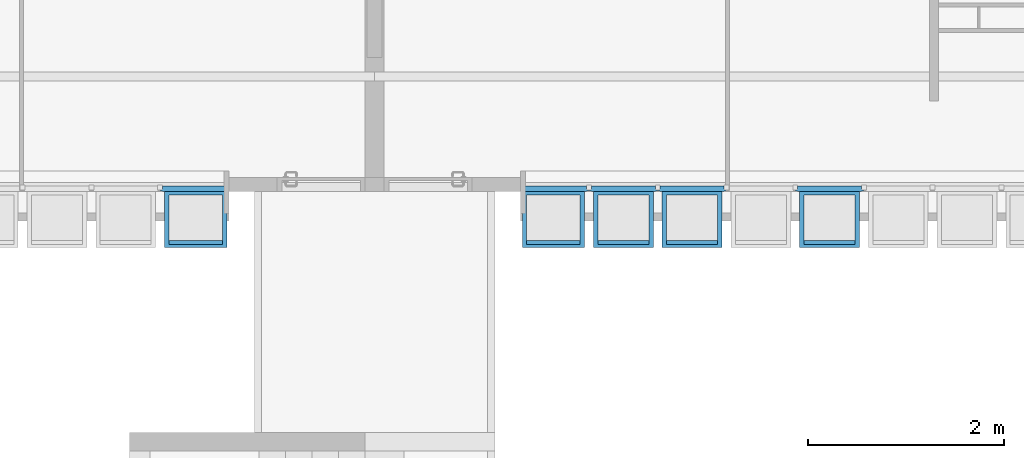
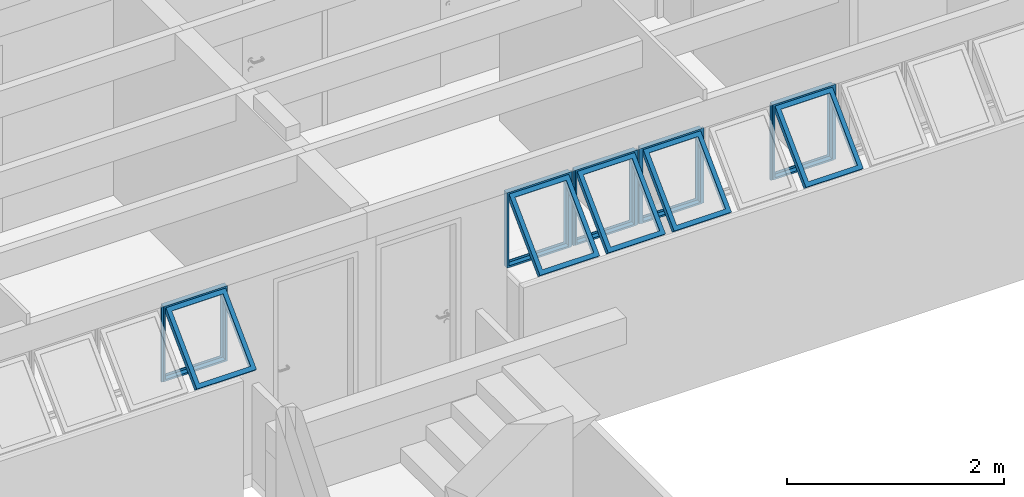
# One storey, part 32 of 38: 5 building element parts, 7 elements without a shape of their own.
"""IFC2X3 building model written with IfcOpenShell, lengths in millimetres."""

from ifc_helpers import new_model, entity, si_unit, converted_unit, derived_unit, money_unit, direction, frame, origin_with_axes, place, context, subcontext, project, spatial, faceted_brep, source, transform, mapped, material, type_object, element, aggregate, save


model = new_model("IFC2X3")

# Units and contexts
model_context = context("Model", 3, precision=0.01, world=origin_with_axes(), true_north=direction((0.0, 1.0)))
body_context = subcontext(model_context, "Body", "Model", "MODEL_VIEW")
ifc_project = project(units=[si_unit("LENGTHUNIT", "METRE", prefix="MILLI"), si_unit("AREAUNIT", "SQUARE_METRE"), si_unit("VOLUMEUNIT", "CUBIC_METRE"), converted_unit("PLANEANGLEUNIT", "DEGREE", entity("IfcPlaneAngleMeasure", 0.0174532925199), si_unit("PLANEANGLEUNIT", "RADIAN"), dimensions=[0, 0, 0, 0, 0, 0, 0]), money_unit("USD"), converted_unit("TIMEUNIT", "Year", entity("IfcTimeMeasure", 31556926.0), si_unit("TIMEUNIT", "SECOND"), dimensions=[0, 0, 1, 0, 0, 0, 0]), si_unit("MASSUNIT", "GRAM", prefix="KILO"), si_unit("THERMODYNAMICTEMPERATUREUNIT", "DEGREE_CELSIUS"), si_unit("LUMINOUSINTENSITYUNIT", "LUMEN"), si_unit("ENERGYUNIT", "JOULE", prefix="MEGA"), derived_unit("THERMALCONDUCTANCEUNIT", [(si_unit("POWERUNIT", "WATT"), 1), (si_unit("LENGTHUNIT", "METRE"), -1), (si_unit("THERMODYNAMICTEMPERATUREUNIT", "KELVIN"), -1)]), derived_unit("SPECIFICHEATCAPACITYUNIT", [(si_unit("ENERGYUNIT", "JOULE"), 1), (si_unit("MASSUNIT", "GRAM", prefix="KILO"), -1), (si_unit("THERMODYNAMICTEMPERATUREUNIT", "KELVIN"), -1)]), derived_unit("MASSDENSITYUNIT", [(si_unit("MASSUNIT", "GRAM", prefix="KILO"), 1), (si_unit("VOLUMEUNIT", "CUBIC_METRE"), -1)])], contexts=[model_context])

# Site, building, storey
site_placement = place(None, origin_with_axes())
site = spatial("IfcSite", under=ifc_project, at=site_placement, Name="Local", CompositionType="ELEMENT")
building_placement = place(site_placement, origin_with_axes())
building = spatial("IfcBuilding", under=site, at=building_placement, Name="Construção", CompositionType="ELEMENT")
storey_placement = place(building_placement, frame((0.0, 0.0, 2650.0), z_axis=(0.0, 0.0, 1.0), x_axis=(1.0, 0.0, 0.0)))
storey = spatial("IfcBuildingStorey", under=building, at=storey_placement, Name="Segundo Pavimento", CompositionType="ELEMENT", Elevation=2650.0)

# Window, plates, building element parts
window_style = type_object("IfcWindowStyle", Name="Tipo de Parede Cortina", ConstructionType="NOTDEFINED", OperationType="NOTDEFINED", ParameterTakesPrecedence=False, Sizeable=False)
window_1_placement = place(storey_placement, frame((12020.0, 17910.0, 1355.00007107), z_axis=(0.0, 0.0, 1.0), x_axis=(1.0, 0.0, 0.0)))
window_1 = element("IfcWindow", 1, at=window_1_placement, inside=storey, type_object=window_style, Name="APTO8-JANELA-000")
plate_type_1 = type_object("IfcPlateType", Name="Painel Principal 690 x 845 x 20", PredefinedType="CURTAIN_PANEL")
plate_1_placement = place(window_1_placement, frame((0.0, 0.0, 422.499964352), z_axis=(0.0, 0.0, 1.0), x_axis=(1.0, 0.0, 0.0)))
plate_1 = element("IfcPlate", 2, at=plate_1_placement, type_object=plate_type_1, Name="APTO8-Painel-Prin-013")
ifc_material = material(Name="Alumínio")
shared_shape_1 = source(origin_with_axes(), body_context, "Body", "Brep", [
    faceted_brep([(-25.0000036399, 0.0, -40.0), (-25.0000036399, 0.0, -35.0), (-674.999997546, 0.0, -35.0), (-674.999997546, 0.0, -40.0), (-70.0000036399, 45.0, -40.0), (-70.0000036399, 45.0, -35.0), (-629.999997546, 45.0, -35.0), (-629.999997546, 45.0, -40.0)], [[[0, 1, 2, 3]], [[4, 5, 1, 0]], [[1, 5, 6, 2]], [[3, 2, 6, 7]], [[0, 3, 7, 4]], [[7, 6, 5, 4]]]),
    faceted_brep([(-674.999997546, 0.0, -40.0), (-674.999997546, 0.0, -35.0), (-674.999997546, 844.999891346, -35.0), (-674.999997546, 844.999891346, -40.0), (-629.999997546, 45.0, -40.0), (-629.999997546, 45.0, -35.0), (-629.999997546, 799.999891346, -35.0), (-629.999997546, 799.999891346, -40.0)], [[[0, 1, 2, 3]], [[4, 5, 1, 0]], [[1, 5, 6, 2]], [[3, 2, 6, 7]], [[0, 3, 7, 4]], [[7, 6, 5, 4]]]),
    faceted_brep([(-25.0000036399, 844.999891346, -40.0), (-25.0000036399, 844.999891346, -35.0), (-70.0000036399, 799.999891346, -35.0), (-70.0000036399, 799.999891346, -40.0), (-674.999997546, 844.999891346, -40.0), (-674.999997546, 844.999891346, -35.0), (-629.999997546, 799.999891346, -35.0), (-629.999997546, 799.999891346, -40.0)], [[[0, 1, 2, 3]], [[4, 5, 1, 0]], [[1, 5, 6, 2]], [[3, 2, 6, 7]], [[0, 3, 7, 4]], [[7, 6, 5, 4]]]),
    faceted_brep([(-25.0000036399, 0.0, -40.0), (-25.0000036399, 0.0, -35.0), (-70.0000036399, 45.0, -35.0), (-70.0000036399, 45.0, -40.0), (-25.0000036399, 844.999891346, -40.0), (-25.0000036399, 844.999891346, -35.0), (-70.0000036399, 799.999891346, -35.0), (-70.0000036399, 799.999891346, -40.0)], [[[0, 1, 2, 3]], [[4, 5, 1, 0]], [[1, 5, 6, 2]], [[3, 2, 6, 7]], [[0, 3, 7, 4]], [[7, 6, 5, 4]]]),
    faceted_brep([(-25.0000036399, 0.0, -35.0), (-25.0000036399, 0.0, 15.0), (-674.999997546, 0.0, 15.0), (-674.999997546, 0.0, -35.0), (-45.0000036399, 20.0, -35.0), (-45.0000036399, 20.0, 15.0), (-654.999997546, 20.0, 15.0), (-654.999997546, 20.0, -35.0)], [[[0, 1, 2, 3]], [[4, 5, 1, 0]], [[1, 5, 6, 2]], [[3, 2, 6, 7]], [[0, 3, 7, 4]], [[7, 6, 5, 4]]]),
    faceted_brep([(-674.999997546, 0.0, -35.0), (-674.999997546, 0.0, 15.0), (-674.999997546, 844.999891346, 15.0), (-674.999997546, 844.999891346, -35.0), (-654.999997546, 20.0, -35.0), (-654.999997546, 20.0, 15.0), (-654.999997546, 824.999891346, 15.0), (-654.999997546, 824.999891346, -35.0)], [[[0, 1, 2, 3]], [[4, 5, 1, 0]], [[1, 5, 6, 2]], [[3, 2, 6, 7]], [[0, 3, 7, 4]], [[7, 6, 5, 4]]]),
    faceted_brep([(-25.0000036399, 844.999891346, -35.0), (-25.0000036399, 844.999891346, 15.0), (-45.0000036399, 824.999891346, 15.0), (-45.0000036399, 824.999891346, -35.0), (-674.999997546, 844.999891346, -35.0), (-674.999997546, 844.999891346, 15.0), (-654.999997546, 824.999891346, 15.0), (-654.999997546, 824.999891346, -35.0)], [[[0, 1, 2, 3]], [[4, 5, 1, 0]], [[1, 5, 6, 2]], [[3, 2, 6, 7]], [[0, 3, 7, 4]], [[7, 6, 5, 4]]]),
    faceted_brep([(-25.0000036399, 0.0, -35.0), (-25.0000036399, 0.0, 15.0), (-45.0000036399, 20.0, 15.0), (-45.0000036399, 20.0, -35.0), (-25.0000036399, 844.999891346, -35.0), (-25.0000036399, 844.999891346, 15.0), (-45.0000036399, 824.999891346, 15.0), (-45.0000036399, 824.999891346, -35.0)], [[[0, 1, 2, 3]], [[4, 5, 1, 0]], [[1, 5, 6, 2]], [[3, 2, 6, 7]], [[0, 3, 7, 4]], [[7, 6, 5, 4]]]),
    faceted_brep([(-694.999995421, 0.0, -10.0), (-694.999995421, 0.0, 10.0), (-694.999995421, 844.999891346, 10.0), (-694.999995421, 844.999891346, -10.0), (-674.999997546, 0.0, -10.0), (-674.999997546, 0.0, 10.0), (-674.999997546, 844.999891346, 10.0), (-674.999997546, 844.999891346, -10.0)], [[[0, 1, 2, 3]], [[4, 5, 1, 0]], [[1, 5, 6, 2]], [[3, 2, 6, 7]], [[0, 3, 7, 4]], [[7, 6, 5, 4]]]),
    faceted_brep([(-5.00000576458, 844.999891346, -10.0), (-5.00000576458, 844.999891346, 10.0), (-5.00000576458, 0.0, 10.0), (-5.00000576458, 0.0, -10.0), (-25.0000036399, 844.999891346, -10.0), (-25.0000036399, 844.999891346, 10.0), (-25.0000036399, 0.0, 10.0), (-25.0000036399, 0.0, -10.0)], [[[0, 1, 2, 3]], [[4, 5, 1, 0]], [[1, 5, 6, 2]], [[3, 2, 6, 7]], [[0, 3, 7, 4]], [[7, 6, 5, 4]]]),
    faceted_brep([(-90.0000036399, 252.243475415, 517.045737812), (-90.0000036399, 291.13434838, 555.936610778), (-90.0000036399, 796.715620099, 50.3553390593), (-90.0000036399, 757.824747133, 11.4644660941), (-45.0000036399, 220.423670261, 548.865542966), (-45.0000036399, 259.314543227, 587.756415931), (-45.0000036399, 828.535425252, 18.5355339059), (-45.0000036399, 789.644552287, -20.3553390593)], [[[0, 1, 2, 3]], [[4, 5, 1, 0]], [[1, 5, 6, 2]], [[3, 2, 6, 7]], [[0, 3, 7, 4]], [[7, 6, 5, 4]]]),
    faceted_brep([(-654.999997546, 220.423670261, 548.865542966), (-654.999997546, 259.314543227, 587.756415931), (-654.999997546, 828.535425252, 18.5355339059), (-654.999997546, 789.644552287, -20.3553390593), (-609.999997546, 252.243475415, 517.045737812), (-609.999997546, 291.13434838, 555.936610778), (-609.999997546, 796.715620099, 50.3553390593), (-609.999997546, 757.824747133, 11.4644660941)], [[[0, 1, 2, 3]], [[4, 5, 1, 0]], [[1, 5, 6, 2]], [[3, 2, 6, 7]], [[0, 3, 7, 4]], [[7, 6, 5, 4]]]),
    faceted_brep([(-654.999997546, 220.423670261, 548.865542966), (-654.999997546, 259.314543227, 587.756415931), (-609.999997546, 291.13434838, 555.936610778), (-609.999997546, 252.243475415, 517.045737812), (-45.0000036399, 220.423670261, 548.865542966), (-45.0000036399, 259.314543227, 587.756415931), (-90.0000036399, 291.13434838, 555.936610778), (-90.0000036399, 252.243475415, 517.045737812)], [[[0, 1, 2, 3]], [[4, 5, 1, 0]], [[1, 5, 6, 2]], [[3, 2, 6, 7]], [[0, 3, 7, 4]], [[7, 6, 5, 4]]]),
    faceted_brep([(-45.0000036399, 789.644552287, -20.3553390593), (-45.0000036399, 828.535425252, 18.5355339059), (-90.0000036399, 796.715620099, 50.3553390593), (-90.0000036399, 757.824747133, 11.4644660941), (-654.999997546, 789.644552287, -20.3553390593), (-654.999997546, 828.535425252, 18.5355339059), (-609.999997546, 796.715620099, 50.3553390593), (-609.999997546, 757.824747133, 11.4644660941)], [[[0, 1, 2, 3]], [[4, 5, 1, 0]], [[1, 5, 6, 2]], [[3, 2, 6, 7]], [[0, 3, 7, 4]], [[7, 6, 5, 4]]]),
])
building_element_part_1_placement = place(plate_1_placement, origin_with_axes())
building_element_part_1 = element("IfcBuildingElementPart", 3, at=building_element_part_1_placement, material=ifc_material, Name="Alumínio", context=body_context, shape_type="MappedRepresentation", body=[
    mapped(shared_shape_1, transform((350.0, 0.0, -422.499964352), x_axis=(1.0, 0.0, 0.0), y_axis=(0.0, 0.0, 1.0), z_axis=(0.0, -1.0, 0.0))),
])
aggregate(plate_1, [building_element_part_1])
plate_2_placement = place(window_1_placement, frame((-2100.0, 0.0, 422.499964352), z_axis=(0.0, 0.0, 1.0), x_axis=(1.0, 0.0, 0.0)))
plate_2 = element("IfcPlate", 4, at=plate_2_placement, type_object=plate_type_1, Name="APTO8-Painel-Prin-029")
building_element_part_2_placement = place(plate_2_placement, origin_with_axes())
building_element_part_2 = element("IfcBuildingElementPart", 5, at=building_element_part_2_placement, material=ifc_material, Name="Alumínio", context=body_context, shape_type="MappedRepresentation", body=[
    mapped(shared_shape_1, transform((350.0, 0.0, -422.499964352), x_axis=(1.0, 0.0, 0.0), y_axis=(0.0, 0.0, 1.0), z_axis=(0.0, -1.0, 0.0))),
])
aggregate(plate_2, [building_element_part_2])
plate_3_placement = place(window_1_placement, frame((-1400.0, 0.0, 422.499964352), z_axis=(0.0, 0.0, 1.0), x_axis=(1.0, 0.0, 0.0)))
plate_3 = element("IfcPlate", 6, at=plate_3_placement, type_object=plate_type_1, Name="APTO8-Painel-Prin-025")
shared_shape_2 = source(origin_with_axes(), body_context, "Body", "Brep", [
    faceted_brep([(-25.0000036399, 0.0, -40.0), (-25.0000036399, 0.0, -35.0), (-674.999997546, 0.0, -35.0), (-674.999997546, 0.0, -40.0), (-70.0000036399, 45.0, -40.0), (-70.0000036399, 45.0, -35.0), (-629.999997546, 45.0, -35.0), (-629.999997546, 45.0, -40.0)], [[[0, 1, 2, 3]], [[4, 5, 1, 0]], [[1, 5, 6, 2]], [[3, 2, 6, 7]], [[0, 3, 7, 4]], [[7, 6, 5, 4]]]),
    faceted_brep([(-674.999997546, 0.0, -40.0), (-674.999997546, 0.0, -35.0), (-674.999997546, 844.999891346, -35.0), (-674.999997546, 844.999891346, -40.0), (-629.999997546, 45.0, -40.0), (-629.999997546, 45.0, -35.0), (-629.999997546, 799.999891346, -35.0), (-629.999997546, 799.999891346, -40.0)], [[[0, 1, 2, 3]], [[4, 5, 1, 0]], [[1, 5, 6, 2]], [[3, 2, 6, 7]], [[0, 3, 7, 4]], [[7, 6, 5, 4]]]),
    faceted_brep([(-25.0000036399, 844.999891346, -40.0), (-25.0000036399, 844.999891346, -35.0), (-70.0000036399, 799.999891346, -35.0), (-70.0000036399, 799.999891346, -40.0), (-674.999997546, 844.999891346, -40.0), (-674.999997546, 844.999891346, -35.0), (-629.999997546, 799.999891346, -35.0), (-629.999997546, 799.999891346, -40.0)], [[[0, 1, 2, 3]], [[4, 5, 1, 0]], [[1, 5, 6, 2]], [[3, 2, 6, 7]], [[0, 3, 7, 4]], [[7, 6, 5, 4]]]),
    faceted_brep([(-25.0000036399, 0.0, -40.0), (-25.0000036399, 0.0, -35.0), (-70.0000036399, 45.0, -35.0), (-70.0000036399, 45.0, -40.0), (-25.0000036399, 844.999891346, -40.0), (-25.0000036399, 844.999891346, -35.0), (-70.0000036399, 799.999891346, -35.0), (-70.0000036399, 799.999891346, -40.0)], [[[0, 1, 2, 3]], [[4, 5, 1, 0]], [[1, 5, 6, 2]], [[3, 2, 6, 7]], [[0, 3, 7, 4]], [[7, 6, 5, 4]]]),
    faceted_brep([(-25.0000036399, 0.0, -35.0), (-25.0000036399, 0.0, 15.0), (-674.999997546, 0.0, 15.0), (-674.999997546, 0.0, -35.0), (-45.0000036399, 20.0, -35.0), (-45.0000036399, 20.0, 15.0), (-654.999997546, 20.0, 15.0), (-654.999997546, 20.0, -35.0)], [[[0, 1, 2, 3]], [[4, 5, 1, 0]], [[1, 5, 6, 2]], [[3, 2, 6, 7]], [[0, 3, 7, 4]], [[7, 6, 5, 4]]]),
    faceted_brep([(-674.999997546, 0.0, -35.0), (-674.999997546, 0.0, 15.0), (-674.999997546, 844.999891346, 15.0), (-674.999997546, 844.999891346, -35.0), (-654.999997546, 20.0, -35.0), (-654.999997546, 20.0, 15.0), (-654.999997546, 824.999891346, 15.0), (-654.999997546, 824.999891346, -35.0)], [[[0, 1, 2, 3]], [[4, 5, 1, 0]], [[1, 5, 6, 2]], [[3, 2, 6, 7]], [[0, 3, 7, 4]], [[7, 6, 5, 4]]]),
    faceted_brep([(-25.0000036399, 844.999891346, -35.0), (-25.0000036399, 844.999891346, 15.0), (-45.0000036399, 824.999891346, 15.0), (-45.0000036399, 824.999891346, -35.0), (-674.999997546, 844.999891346, -35.0), (-674.999997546, 844.999891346, 15.0), (-654.999997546, 824.999891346, 15.0), (-654.999997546, 824.999891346, -35.0)], [[[0, 1, 2, 3]], [[4, 5, 1, 0]], [[1, 5, 6, 2]], [[3, 2, 6, 7]], [[0, 3, 7, 4]], [[7, 6, 5, 4]]]),
    faceted_brep([(-25.0000036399, 0.0, -35.0), (-25.0000036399, 0.0, 15.0), (-45.0000036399, 20.0, 15.0), (-45.0000036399, 20.0, -35.0), (-25.0000036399, 844.999891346, -35.0), (-25.0000036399, 844.999891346, 15.0), (-45.0000036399, 824.999891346, 15.0), (-45.0000036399, 824.999891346, -35.0)], [[[0, 1, 2, 3]], [[4, 5, 1, 0]], [[1, 5, 6, 2]], [[3, 2, 6, 7]], [[0, 3, 7, 4]], [[7, 6, 5, 4]]]),
    faceted_brep([(-694.999995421, 0.0, -10.0), (-694.999995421, 0.0, 10.0), (-694.999995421, 844.999891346, 10.0), (-694.999995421, 844.999891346, -10.0), (-674.999997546, 0.0, -10.0), (-674.999997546, 0.0, 10.0), (-674.999997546, 844.999891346, 10.0), (-674.999997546, 844.999891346, -10.0)], [[[0, 1, 2, 3]], [[4, 5, 1, 0]], [[1, 5, 6, 2]], [[3, 2, 6, 7]], [[0, 3, 7, 4]], [[7, 6, 5, 4]]]),
    faceted_brep([(-5.00000576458, 844.999891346, -10.0), (-5.00000576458, 844.999891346, 10.0), (-5.00000576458, 0.0, 10.0), (-5.00000576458, 0.0, -10.0), (-25.0000036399, 844.999891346, -10.0), (-25.0000036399, 844.999891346, 10.0), (-25.0000036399, 0.0, 10.0), (-25.0000036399, 0.0, -10.0)], [[[0, 1, 2, 3]], [[4, 5, 1, 0]], [[1, 5, 6, 2]], [[3, 2, 6, 7]], [[0, 3, 7, 4]], [[7, 6, 5, 4]]]),
    faceted_brep([(-90.0000036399, 252.243475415, 517.045737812), (-90.0000036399, 291.13434838, 555.936610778), (-90.0000036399, 796.715620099, 50.3553390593), (-90.0000036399, 757.824747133, 11.4644660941), (-45.0000036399, 220.423670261, 548.865542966), (-45.0000036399, 259.314543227, 587.756415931), (-45.0000036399, 828.535425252, 18.5355339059), (-45.0000036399, 789.644552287, -20.3553390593)], [[[0, 1, 2, 3]], [[4, 5, 1, 0]], [[1, 5, 6, 2]], [[3, 2, 6, 7]], [[0, 3, 7, 4]], [[7, 6, 5, 4]]]),
    faceted_brep([(-654.999997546, 220.423670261, 548.865542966), (-654.999997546, 259.314543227, 587.756415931), (-654.999997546, 828.535425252, 18.5355339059), (-654.999997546, 789.644552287, -20.3553390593), (-609.999997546, 252.243475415, 517.045737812), (-609.999997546, 291.13434838, 555.936610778), (-609.999997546, 796.715620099, 50.3553390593), (-609.999997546, 757.824747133, 11.4644660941)], [[[0, 1, 2, 3]], [[4, 5, 1, 0]], [[1, 5, 6, 2]], [[3, 2, 6, 7]], [[0, 3, 7, 4]], [[7, 6, 5, 4]]]),
    faceted_brep([(-654.999997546, 220.423670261, 548.865542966), (-654.999997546, 259.314543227, 587.756415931), (-609.999997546, 291.13434838, 555.936610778), (-609.999997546, 252.243475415, 517.045737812), (-45.0000036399, 220.423670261, 548.865542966), (-45.0000036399, 259.314543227, 587.756415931), (-90.0000036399, 291.13434838, 555.936610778), (-90.0000036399, 252.243475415, 517.045737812)], [[[0, 1, 2, 3]], [[4, 5, 1, 0]], [[1, 5, 6, 2]], [[3, 2, 6, 7]], [[0, 3, 7, 4]], [[7, 6, 5, 4]]]),
    faceted_brep([(-45.0000036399, 789.644552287, -20.3553390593), (-45.0000036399, 828.535425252, 18.5355339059), (-90.0000036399, 796.715620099, 50.3553390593), (-90.0000036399, 757.824747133, 11.4644660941), (-654.999997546, 789.644552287, -20.3553390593), (-654.999997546, 828.535425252, 18.5355339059), (-609.999997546, 796.715620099, 50.3553390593), (-609.999997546, 757.824747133, 11.4644660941)], [[[0, 1, 2, 3]], [[4, 5, 1, 0]], [[1, 5, 6, 2]], [[3, 2, 6, 7]], [[0, 3, 7, 4]], [[7, 6, 5, 4]]]),
])
building_element_part_3_placement = place(plate_3_placement, origin_with_axes())
building_element_part_3 = element("IfcBuildingElementPart", 7, at=building_element_part_3_placement, material=ifc_material, Name="Alumínio", context=body_context, shape_type="MappedRepresentation", body=[
    mapped(shared_shape_2, transform((350.0, 0.0, -422.499964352), x_axis=(1.0, 0.0, 0.0), y_axis=(0.0, 0.0, 1.0), z_axis=(0.0, -1.0, 0.0))),
])
aggregate(plate_3, [building_element_part_3])
plate_type_2 = type_object("IfcPlateType", Name="Painel Principal 695 x 845 x 20", PredefinedType="CURTAIN_PANEL")
plate_4_placement = place(window_1_placement, frame((-2800.0, 0.0, 422.499986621), z_axis=(0.0, 0.0, 1.0), x_axis=(1.0, 0.0, 0.0)))
plate_4 = element("IfcPlate", 8, at=plate_4_placement, type_object=plate_type_2, Name="APTO8-Painel-Prin-020")
aggregate(window_1, [plate_1, plate_2, plate_3, plate_4])
shared_shape_3 = source(origin_with_axes(), body_context, "Body", "Brep", [
    faceted_brep([(-25.0000062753, 0.0, -40.0), (-25.0000062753, 0.0, -35.0), (-699.999999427, 0.0, -35.0), (-699.999999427, 0.0, -40.0), (-70.0000062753, 45.0, -40.0), (-70.0000062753, 45.0, -35.0), (-654.999999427, 45.0, -35.0), (-654.999999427, 45.0, -40.0)], [[[0, 1, 2, 3]], [[4, 5, 1, 0]], [[1, 5, 6, 2]], [[3, 2, 6, 7]], [[0, 3, 7, 4]], [[7, 6, 5, 4]]]),
    faceted_brep([(-699.999999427, 0.0, -40.0), (-699.999999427, 0.0, -35.0), (-699.999999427, 844.999980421, -35.0), (-699.999999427, 844.999980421, -40.0), (-654.999999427, 45.0, -40.0), (-654.999999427, 45.0, -35.0), (-654.999999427, 799.999980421, -35.0), (-654.999999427, 799.999980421, -40.0)], [[[0, 1, 2, 3]], [[4, 5, 1, 0]], [[1, 5, 6, 2]], [[3, 2, 6, 7]], [[0, 3, 7, 4]], [[7, 6, 5, 4]]]),
    faceted_brep([(-25.0000062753, 844.999980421, -40.0), (-25.0000062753, 844.999980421, -35.0), (-70.0000062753, 799.999980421, -35.0), (-70.0000062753, 799.999980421, -40.0), (-699.999999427, 844.999980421, -40.0), (-699.999999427, 844.999980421, -35.0), (-654.999999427, 799.999980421, -35.0), (-654.999999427, 799.999980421, -40.0)], [[[0, 1, 2, 3]], [[4, 5, 1, 0]], [[1, 5, 6, 2]], [[3, 2, 6, 7]], [[0, 3, 7, 4]], [[7, 6, 5, 4]]]),
    faceted_brep([(-25.0000062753, 0.0, -40.0), (-25.0000062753, 0.0, -35.0), (-70.0000062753, 45.0, -35.0), (-70.0000062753, 45.0, -40.0), (-25.0000062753, 844.999980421, -40.0), (-25.0000062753, 844.999980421, -35.0), (-70.0000062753, 799.999980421, -35.0), (-70.0000062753, 799.999980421, -40.0)], [[[0, 1, 2, 3]], [[4, 5, 1, 0]], [[1, 5, 6, 2]], [[3, 2, 6, 7]], [[0, 3, 7, 4]], [[7, 6, 5, 4]]]),
    faceted_brep([(-25.0000062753, 0.0, -35.0), (-25.0000062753, 0.0, 15.0), (-699.999999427, 0.0, 15.0), (-699.999999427, 0.0, -35.0), (-45.0000062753, 20.0, -35.0), (-45.0000062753, 20.0, 15.0), (-679.999999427, 20.0, 15.0), (-679.999999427, 20.0, -35.0)], [[[0, 1, 2, 3]], [[4, 5, 1, 0]], [[1, 5, 6, 2]], [[3, 2, 6, 7]], [[0, 3, 7, 4]], [[7, 6, 5, 4]]]),
    faceted_brep([(-699.999999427, 0.0, -35.0), (-699.999999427, 0.0, 15.0), (-699.999999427, 844.999980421, 15.0), (-699.999999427, 844.999980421, -35.0), (-679.999999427, 20.0, -35.0), (-679.999999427, 20.0, 15.0), (-679.999999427, 824.999980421, 15.0), (-679.999999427, 824.999980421, -35.0)], [[[0, 1, 2, 3]], [[4, 5, 1, 0]], [[1, 5, 6, 2]], [[3, 2, 6, 7]], [[0, 3, 7, 4]], [[7, 6, 5, 4]]]),
    faceted_brep([(-25.0000062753, 844.999980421, -35.0), (-25.0000062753, 844.999980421, 15.0), (-45.0000062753, 824.999980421, 15.0), (-45.0000062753, 824.999980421, -35.0), (-699.999999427, 844.999980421, -35.0), (-699.999999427, 844.999980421, 15.0), (-679.999999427, 824.999980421, 15.0), (-679.999999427, 824.999980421, -35.0)], [[[0, 1, 2, 3]], [[4, 5, 1, 0]], [[1, 5, 6, 2]], [[3, 2, 6, 7]], [[0, 3, 7, 4]], [[7, 6, 5, 4]]]),
    faceted_brep([(-25.0000062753, 0.0, -35.0), (-25.0000062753, 0.0, 15.0), (-45.0000062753, 20.0, 15.0), (-45.0000062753, 20.0, -35.0), (-25.0000062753, 844.999980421, -35.0), (-25.0000062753, 844.999980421, 15.0), (-45.0000062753, 824.999980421, 15.0), (-45.0000062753, 824.999980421, -35.0)], [[[0, 1, 2, 3]], [[4, 5, 1, 0]], [[1, 5, 6, 2]], [[3, 2, 6, 7]], [[0, 3, 7, 4]], [[7, 6, 5, 4]]]),
    faceted_brep([(-5.00000629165, 844.999980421, -10.0), (-5.00000629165, 844.999980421, 10.0), (-5.00000629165, 0.0, 10.0), (-5.00000629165, 0.0, -10.0), (-25.0000062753, 844.999980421, -10.0), (-25.0000062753, 844.999980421, 10.0), (-25.0000062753, 0.0, 10.0), (-25.0000062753, 0.0, -10.0)], [[[0, 1, 2, 3]], [[4, 5, 1, 0]], [[1, 5, 6, 2]], [[3, 2, 6, 7]], [[0, 3, 7, 4]], [[7, 6, 5, 4]]]),
    faceted_brep([(-90.0000062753, 252.243501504, 517.045800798), (-90.0000062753, 291.134374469, 555.936673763), (-90.0000062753, 796.715709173, 50.3553390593), (-90.0000062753, 757.824836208, 11.4644660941), (-45.0000062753, 220.423696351, 548.865605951), (-45.0000062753, 259.314569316, 587.756478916), (-45.0000062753, 828.535514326, 18.5355339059), (-45.0000062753, 789.644641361, -20.3553390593)], [[[0, 1, 2, 3]], [[4, 5, 1, 0]], [[1, 5, 6, 2]], [[3, 2, 6, 7]], [[0, 3, 7, 4]], [[7, 6, 5, 4]]]),
    faceted_brep([(-679.999999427, 220.423696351, 548.865605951), (-679.999999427, 259.314569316, 587.756478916), (-679.999999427, 828.535514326, 18.5355339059), (-679.999999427, 789.644641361, -20.3553390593), (-634.999999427, 252.243501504, 517.045800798), (-634.999999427, 291.134374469, 555.936673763), (-634.999999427, 796.715709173, 50.3553390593), (-634.999999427, 757.824836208, 11.4644660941)], [[[0, 1, 2, 3]], [[4, 5, 1, 0]], [[1, 5, 6, 2]], [[3, 2, 6, 7]], [[0, 3, 7, 4]], [[7, 6, 5, 4]]]),
    faceted_brep([(-679.999999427, 220.423696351, 548.865605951), (-679.999999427, 259.314569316, 587.756478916), (-634.999999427, 291.134374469, 555.936673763), (-634.999999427, 252.243501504, 517.045800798), (-45.0000062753, 220.423696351, 548.865605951), (-45.0000062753, 259.314569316, 587.756478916), (-90.0000062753, 291.134374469, 555.936673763), (-90.0000062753, 252.243501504, 517.045800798)], [[[0, 1, 2, 3]], [[4, 5, 1, 0]], [[1, 5, 6, 2]], [[3, 2, 6, 7]], [[0, 3, 7, 4]], [[7, 6, 5, 4]]]),
    faceted_brep([(-45.0000062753, 789.644641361, -20.3553390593), (-45.0000062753, 828.535514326, 18.5355339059), (-90.0000062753, 796.715709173, 50.3553390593), (-90.0000062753, 757.824836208, 11.4644660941), (-679.999999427, 789.644641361, -20.3553390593), (-679.999999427, 828.535514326, 18.5355339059), (-634.999999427, 796.715709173, 50.3553390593), (-634.999999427, 757.824836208, 11.4644660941)], [[[0, 1, 2, 3]], [[4, 5, 1, 0]], [[1, 5, 6, 2]], [[3, 2, 6, 7]], [[0, 3, 7, 4]], [[7, 6, 5, 4]]]),
])
building_element_part_4_placement = place(plate_4_placement, origin_with_axes())
building_element_part_4 = element("IfcBuildingElementPart", 9, at=building_element_part_4_placement, material=ifc_material, Name="Alumínio", context=body_context, shape_type="MappedRepresentation", body=[
    mapped(shared_shape_3, transform((350.0, 0.0, -422.499986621), x_axis=(1.0, 0.0, 0.0), y_axis=(0.0, 0.0, 1.0), z_axis=(0.0, -1.0, 0.0))),
])
aggregate(plate_4, [building_element_part_4])

# Window, plate, building element part
window_2_placement = place(storey_placement, frame((2750.0, 17910.0, 1355.00007107), z_axis=(0.0, 0.0, 1.0), x_axis=(1.0, 0.0, 0.0)))
window_2 = element("IfcWindow", 10, at=window_2_placement, inside=storey, type_object=window_style, Name="APTO7-JANELA-000")
plate_5_placement = place(window_2_placement, frame((2800.0, 0.0, 422.499986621), z_axis=(0.0, 0.0, 1.0), x_axis=(-1.0, 0.0, 0.0)))
plate_5 = element("IfcPlate", 11, at=plate_5_placement, type_object=plate_type_2, Name="APTO7-Painel-Prin-020")
aggregate(window_2, [plate_5])
shared_shape_4 = source(origin_with_axes(), body_context, "Body", "Brep", [
    faceted_brep([(25.0000062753, 0.0, -40.0), (699.999999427, 0.0, -40.0), (699.999999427, 0.0, -35.0), (25.0000062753, 0.0, -35.0), (70.0000062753, 45.0, -40.0), (654.999999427, 45.0, -40.0), (654.999999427, 45.0, -35.0), (70.0000062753, 45.0, -35.0)], [[[0, 1, 2, 3]], [[0, 4, 5, 1]], [[1, 5, 6, 2]], [[3, 2, 6, 7]], [[4, 0, 3, 7]], [[5, 4, 7, 6]]]),
    faceted_brep([(699.999999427, 0.0, -40.0), (699.999999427, 844.999980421, -40.0), (699.999999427, 844.999980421, -35.0), (699.999999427, 0.0, -35.0), (654.999999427, 45.0, -40.0), (654.999999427, 799.999980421, -40.0), (654.999999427, 799.999980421, -35.0), (654.999999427, 45.0, -35.0)], [[[0, 1, 2, 3]], [[0, 4, 5, 1]], [[1, 5, 6, 2]], [[3, 2, 6, 7]], [[4, 0, 3, 7]], [[5, 4, 7, 6]]]),
    faceted_brep([(25.0000062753, 844.999980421, -40.0), (70.0000062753, 799.999980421, -40.0), (70.0000062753, 799.999980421, -35.0), (25.0000062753, 844.999980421, -35.0), (699.999999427, 844.999980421, -40.0), (654.999999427, 799.999980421, -40.0), (654.999999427, 799.999980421, -35.0), (699.999999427, 844.999980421, -35.0)], [[[0, 1, 2, 3]], [[0, 4, 5, 1]], [[1, 5, 6, 2]], [[3, 2, 6, 7]], [[4, 0, 3, 7]], [[5, 4, 7, 6]]]),
    faceted_brep([(25.0000062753, 0.0, -40.0), (70.0000062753, 45.0, -40.0), (70.0000062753, 45.0, -35.0), (25.0000062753, 0.0, -35.0), (25.0000062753, 844.999980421, -40.0), (70.0000062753, 799.999980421, -40.0), (70.0000062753, 799.999980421, -35.0), (25.0000062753, 844.999980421, -35.0)], [[[0, 1, 2, 3]], [[0, 4, 5, 1]], [[1, 5, 6, 2]], [[3, 2, 6, 7]], [[4, 0, 3, 7]], [[5, 4, 7, 6]]]),
    faceted_brep([(25.0000062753, 0.0, -35.0), (699.999999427, 0.0, -35.0), (699.999999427, 0.0, 15.0), (25.0000062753, 0.0, 15.0), (45.0000062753, 20.0, -35.0), (679.999999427, 20.0, -35.0), (679.999999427, 20.0, 15.0), (45.0000062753, 20.0, 15.0)], [[[0, 1, 2, 3]], [[0, 4, 5, 1]], [[1, 5, 6, 2]], [[3, 2, 6, 7]], [[4, 0, 3, 7]], [[5, 4, 7, 6]]]),
    faceted_brep([(699.999999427, 0.0, -35.0), (699.999999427, 844.999980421, -35.0), (699.999999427, 844.999980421, 15.0), (699.999999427, 0.0, 15.0), (679.999999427, 20.0, -35.0), (679.999999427, 824.999980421, -35.0), (679.999999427, 824.999980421, 15.0), (679.999999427, 20.0, 15.0)], [[[0, 1, 2, 3]], [[0, 4, 5, 1]], [[1, 5, 6, 2]], [[3, 2, 6, 7]], [[4, 0, 3, 7]], [[5, 4, 7, 6]]]),
    faceted_brep([(25.0000062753, 844.999980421, -35.0), (45.0000062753, 824.999980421, -35.0), (45.0000062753, 824.999980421, 15.0), (25.0000062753, 844.999980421, 15.0), (699.999999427, 844.999980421, -35.0), (679.999999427, 824.999980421, -35.0), (679.999999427, 824.999980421, 15.0), (699.999999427, 844.999980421, 15.0)], [[[0, 1, 2, 3]], [[0, 4, 5, 1]], [[1, 5, 6, 2]], [[3, 2, 6, 7]], [[4, 0, 3, 7]], [[5, 4, 7, 6]]]),
    faceted_brep([(25.0000062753, 0.0, -35.0), (45.0000062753, 20.0, -35.0), (45.0000062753, 20.0, 15.0), (25.0000062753, 0.0, 15.0), (25.0000062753, 844.999980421, -35.0), (45.0000062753, 824.999980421, -35.0), (45.0000062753, 824.999980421, 15.0), (25.0000062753, 844.999980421, 15.0)], [[[0, 1, 2, 3]], [[0, 4, 5, 1]], [[1, 5, 6, 2]], [[3, 2, 6, 7]], [[4, 0, 3, 7]], [[5, 4, 7, 6]]]),
    faceted_brep([(5.00000629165, 844.999980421, -10.0), (5.00000629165, 0.0, -10.0), (5.00000629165, 0.0, 10.0), (5.00000629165, 844.999980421, 10.0), (25.0000062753, 844.999980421, -10.0), (25.0000062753, 0.0, -10.0), (25.0000062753, 0.0, 10.0), (25.0000062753, 844.999980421, 10.0)], [[[0, 1, 2, 3]], [[0, 4, 5, 1]], [[1, 5, 6, 2]], [[3, 2, 6, 7]], [[4, 0, 3, 7]], [[5, 4, 7, 6]]]),
    faceted_brep([(90.0000062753, 252.243501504, 517.045800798), (90.0000062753, 757.824836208, 11.4644660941), (90.0000062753, 796.715709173, 50.3553390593), (90.0000062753, 291.134374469, 555.936673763), (45.0000062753, 220.423696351, 548.865605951), (45.0000062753, 789.644641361, -20.3553390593), (45.0000062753, 828.535514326, 18.5355339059), (45.0000062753, 259.314569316, 587.756478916)], [[[0, 1, 2, 3]], [[0, 4, 5, 1]], [[1, 5, 6, 2]], [[3, 2, 6, 7]], [[4, 0, 3, 7]], [[5, 4, 7, 6]]]),
    faceted_brep([(679.999999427, 220.423696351, 548.865605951), (679.999999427, 789.644641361, -20.3553390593), (679.999999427, 828.535514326, 18.5355339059), (679.999999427, 259.314569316, 587.756478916), (634.999999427, 252.243501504, 517.045800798), (634.999999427, 757.824836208, 11.4644660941), (634.999999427, 796.715709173, 50.3553390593), (634.999999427, 291.134374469, 555.936673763)], [[[0, 1, 2, 3]], [[0, 4, 5, 1]], [[1, 5, 6, 2]], [[3, 2, 6, 7]], [[4, 0, 3, 7]], [[5, 4, 7, 6]]]),
    faceted_brep([(679.999999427, 220.423696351, 548.865605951), (634.999999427, 252.243501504, 517.045800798), (634.999999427, 291.134374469, 555.936673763), (679.999999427, 259.314569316, 587.756478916), (45.0000062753, 220.423696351, 548.865605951), (90.0000062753, 252.243501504, 517.045800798), (90.0000062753, 291.134374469, 555.936673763), (45.0000062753, 259.314569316, 587.756478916)], [[[0, 1, 2, 3]], [[0, 4, 5, 1]], [[1, 5, 6, 2]], [[3, 2, 6, 7]], [[4, 0, 3, 7]], [[5, 4, 7, 6]]]),
    faceted_brep([(45.0000062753, 789.644641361, -20.3553390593), (90.0000062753, 757.824836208, 11.4644660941), (90.0000062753, 796.715709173, 50.3553390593), (45.0000062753, 828.535514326, 18.5355339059), (679.999999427, 789.644641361, -20.3553390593), (634.999999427, 757.824836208, 11.4644660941), (634.999999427, 796.715709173, 50.3553390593), (679.999999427, 828.535514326, 18.5355339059)], [[[0, 1, 2, 3]], [[0, 4, 5, 1]], [[1, 5, 6, 2]], [[3, 2, 6, 7]], [[4, 0, 3, 7]], [[5, 4, 7, 6]]]),
])
building_element_part_5_placement = place(plate_5_placement, origin_with_axes())
building_element_part_5 = element("IfcBuildingElementPart", 12, at=building_element_part_5_placement, material=ifc_material, Name="Alumínio", context=body_context, shape_type="MappedRepresentation", body=[
    mapped(shared_shape_4, transform((350.0, 0.0, -422.499986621), x_axis=(-1.0, 0.0, 0.0), y_axis=(0.0, 0.0, 1.0), z_axis=(0.0, 1.0, 0.0))),
])
aggregate(plate_5, [building_element_part_5])

save(model, "model.ifc")
